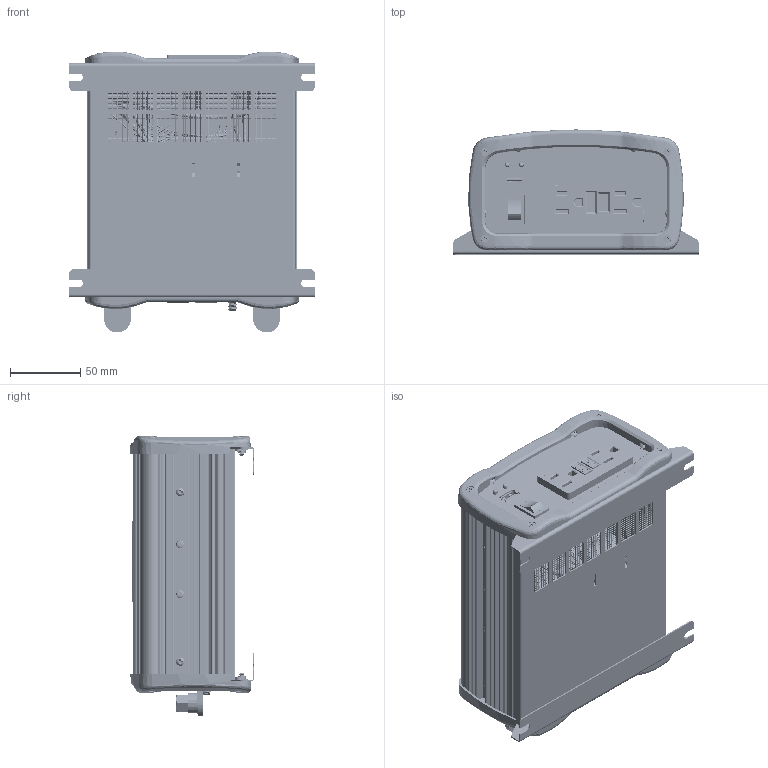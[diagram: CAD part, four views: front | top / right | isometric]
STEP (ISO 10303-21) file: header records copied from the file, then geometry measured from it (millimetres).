
FILE_DESCRIPTION((''),'2;1');
FILE_NAME('400W_ASM','2017-07-13T',('muyichun'),(''),'PRO/ENGINEER BY PARAMETRIC TECHNOLOGY CORPORATION, 2006100','PRO/ENGINEER BY PARAMETRIC TECHNOLOGY CORPORATION, 2006100','');
FILE_SCHEMA(('CONFIG_CONTROL_DESIGN'));
Length unit declared in the file: millimetre
Products named in the file (54): EXTRUDE-1000; DC-PANEL; FAN4700270A; BOTTOM-PANEL; AC-PANEL; PCB; YC-B-48; TO6100250A; CHF900_ASM; 220VOUTCHAZUO; AC-PLASTIC1000; USB-NEW; SWI; BUG55005300; BUG55005400; BUG55005500; BUG55005600; SPA5902310A; SCW52045600; HET56040600; HET56092500; SPE53022900; CAY92-RED; CAY92-BLACK; CAY9215; SCW52035900; SCW52034500; WAS54001000; SCW5200380A; SCW52036600; SCW52022300; SCW52045700; WAS54004400; NUT18001300; MIC58006800; CAY92125800; AC-PUT-N; AC-PUT-L; WAS54002000; SCW52007300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
Assembly tree (107 placements, depth 3):
  400W_ASM
    EXTRUDE-1000
    DC-PANEL
    FAN4700270A
    BOTTOM-PANEL
    AC-PANEL
    PCB
    CHF900_ASM
      YC-B-48
      TO6100250A
    220VOUTCHAZUO
    AC-PLASTIC1000  x2
    USB-NEW
    SWI
    BUG55005300
    BUG55005400
    BUG55005500
    BUG55005600
    SPA5902310A
    SCW52045600  x9
    HET56040600  x3
    HET56092500  x4
    SPE53022900  x4
    CAY92-RED
    CAY92-BLACK
    CAY9215
    SCW52035900  x3
    SCW52034500  x4
    WAS54001000  x8
    SCW5200380A  x8
    SCW52036600  x8
    SCW52022300  x2
    SCW52045700
    WAS54004400  x2
    NUT18001300  x4
    MIC58006800  x3
    CAY92125800
    AC-PUT-N
    AC-PUT-L
    WAS54002000  x2
    SCW52007300  x2
    PTF90046500
    BUG55019500
    CAY921563900
    FAN-ZAO
    HET56026600  x2
    HET56106600  x2
    MEC3200070A-1
    MEC3200070A-2
    INP-PCB-BOTTOM
    MIC58005800
    TIE4900080A
    USB
    SPRING
Bounding box: 175 x 89 x 200.42 mm (x, y, z)
Volume: 588306.8 mm3; surface area: 522462.1 mm2
Topology: 208 solids, 214 shells, 8921 faces, 23405 edges, 15051 vertices
Faces by surface type: plane 4161, cylinder 3057, bspline 892, torus 535, cone 224, sphere 50, extrusion 2
Entity records: 440968 total; most frequent: CARTESIAN_POINT 285202, ORIENTED_EDGE 33000, DIRECTION 30819, EDGE_CURVE 16500, VERTEX_POINT 10600, AXIS2_PLACEMENT_3D 10372, VECTOR 10075, LINE 10073
